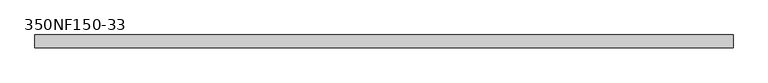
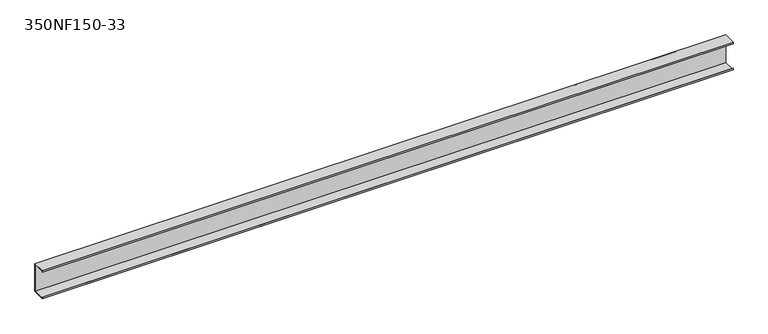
"""IFC4 building model written with IfcOpenShell, lengths in millimetres: beam geometry, BIMSF-SSMA-S : 350NF150-33."""

from ifc_helpers import new_model, si_unit, frame, origin, place, context, project, spatial, polyline, outline, extrude, source, transform, mapped, element, save


def beam_350nf150_33_7c8497de(model_context):
    return source(origin(), model_context, "Body", "SweptSolid", [
        extrude(outline(polyline([(19.05, 44.45), (19.05, -44.45), (-19.05, -44.45), (-19.05, -39.6748), (-18.1676842, -39.6748), (-18.1676842, -43.5676842), (18.1676842, -43.5676842), (18.1676842, 43.5676842), (-18.1676842, 43.5676842), (-18.1676842, 39.6748), (-19.05, 39.6748), (-19.05, 44.45), (19.05, 44.45)])), frame((-1046.1625, 0.0, 0.0), z_axis=(1.0, 0.0, 0.0), x_axis=(0.0, 1.0, 0.0)), (0.0, 0.0, 1.0), 2092.325),
    ])


if __name__ == "__main__":
    model = new_model("IFC4")
    model_context = context("Model", 3, world=origin())
    ifc_project = project(units=[si_unit("LENGTHUNIT", "METRE", prefix="MILLI")], contexts=[model_context])
    site = spatial("IfcSite", under=ifc_project)
    building = spatial("IfcBuilding", under=site)
    placement = place(None, origin())
    beam_350nf150_33_shape = beam_350nf150_33_7c8497de(model_context)
    element("IfcBeam", 1, ObjectType="BIMSF-SSMA-S : 350NF150-33", at=placement, inside=building, context=model_context, shape_type="MappedRepresentation", body=[
        mapped(beam_350nf150_33_shape, transform((0.0, 0.0, 0.0), x_axis=(1.0, 0.0, 0.0), y_axis=(0.0, 1.0, 0.0), z_axis=(0.0, 0.0, 1.0))),
    ])
    save(model, "model.ifc")
